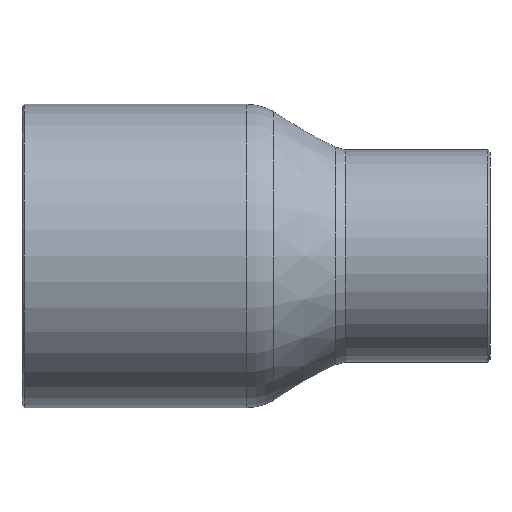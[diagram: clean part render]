
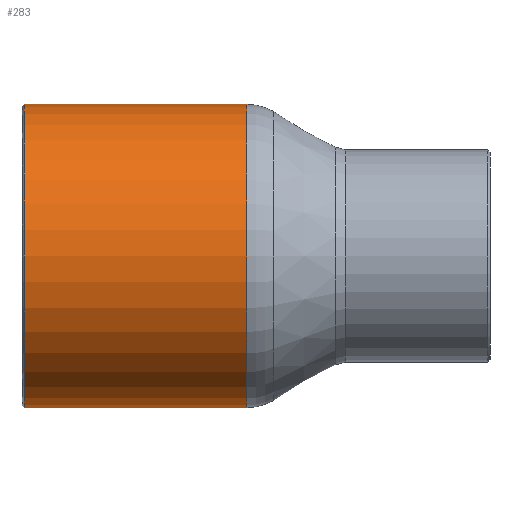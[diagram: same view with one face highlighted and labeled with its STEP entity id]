
A CAD part, front view. The second image highlights one B-rep face of the part: STEP entity #283.
In plain terms, the highlighted cylindrical face has radius 14.287 mm (diameter 28.575 mm), a full revolution.
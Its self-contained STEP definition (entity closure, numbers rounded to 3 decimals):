
#252=CARTESIAN_POINT('',(-32.6,14.288,0.));
#253=VERTEX_POINT('',#252);
#254=CARTESIAN_POINT('',(-32.6,0.0,0.0));
#255=DIRECTION('',(-1.0,0.0,0.0));
#256=DIRECTION('',(0.0,-1.0,0.0));
#257=AXIS2_PLACEMENT_3D('',#254,#255,#256);
#258=CIRCLE('',#257,14.288);
#259=EDGE_CURVE('',#253,#253,#258,.T.);
#264=CARTESIAN_POINT('',(-22.2,0.0,0.0));
#265=DIRECTION('',(1.0,0.0,0.0));
#266=DIRECTION('',(0.0,1.0,0.0));
#267=AXIS2_PLACEMENT_3D('',#264,#265,#266);
#268=CYLINDRICAL_SURFACE('',#267,14.288);
#269=CARTESIAN_POINT('',(-11.6,14.288,0.0));
#270=VERTEX_POINT('',#269);
#271=CARTESIAN_POINT('',(-11.6,0.0,0.0));
#272=DIRECTION('',(1.0,0.0,0.0));
#273=DIRECTION('',(0.0,1.0,0.0));
#274=AXIS2_PLACEMENT_3D('',#271,#272,#273);
#275=CIRCLE('',#274,14.288);
#276=EDGE_CURVE('',#270,#270,#275,.T.);
#277=ORIENTED_EDGE('',*,*,#276,.F.);
#278=EDGE_LOOP('',(#277));
#279=FACE_OUTER_BOUND('',#278,.T.);
#280=ORIENTED_EDGE('',*,*,#259,.F.);
#281=EDGE_LOOP('',(#280));
#282=FACE_BOUND('',#281,.T.);
#283=ADVANCED_FACE('',(#279,#282),#268,.T.);
